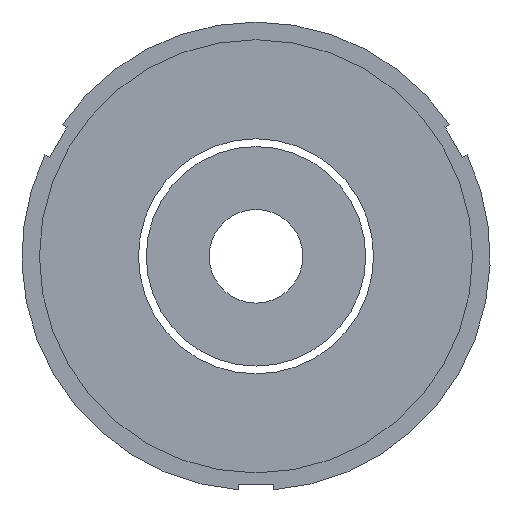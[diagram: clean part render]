
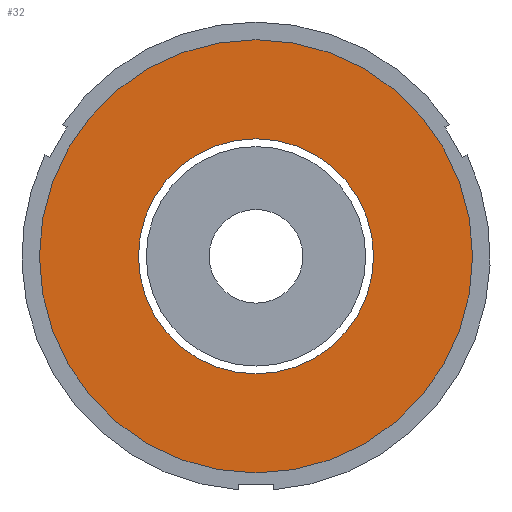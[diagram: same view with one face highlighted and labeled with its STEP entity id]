
A CAD part, front view. The second image highlights one B-rep face of the part: STEP entity #32.
In plain terms, the highlighted planar face has unit normal (0, -1, 0).
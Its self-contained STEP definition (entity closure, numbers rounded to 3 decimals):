
#32 = ADVANCED_FACE ( 'NONE', ( #727, #625 ), #155, .F. ) ;
#58 = EDGE_CURVE ( 'NONE', #300, #695, #190, .T. ) ;
#77 = CARTESIAN_POINT ( 'NONE',  ( 11.161, 15.672, 22.791 ) ) ;
#88 = AXIS2_PLACEMENT_3D ( 'NONE', #1062, #214, #595 ) ;
#102 = DIRECTION ( 'NONE',  ( 0., 0., 1. ) ) ;
#114 = CIRCLE ( 'NONE', #696, 18.5 ) ;
#126 = CARTESIAN_POINT ( 'NONE',  ( 11.161, 15.672, 51.331 ) ) ;
#133 = AXIS2_PLACEMENT_3D ( 'NONE', #1002, #342, #413 ) ;
#136 = VERTEX_POINT ( 'NONE', #587 ) ;
#155 = PLANE ( 'NONE',  #920 ) ;
#165 = EDGE_CURVE ( 'NONE', #571, #136, #114, .T. ) ;
#190 = CIRCLE ( 'NONE', #88, 10.04 ) ;
#207 = CARTESIAN_POINT ( 'NONE',  ( 11.161, 15.672, 32.831 ) ) ;
#214 = DIRECTION ( 'NONE',  ( 0., 1., 0. ) ) ;
#219 = CARTESIAN_POINT ( 'NONE',  ( 11.161, 15.672, 42.871 ) ) ;
#273 = DIRECTION ( 'NONE',  ( 0., 1., 0. ) ) ;
#299 = EDGE_LOOP ( 'NONE', ( #892, #929 ) ) ;
#300 = VERTEX_POINT ( 'NONE', #219 ) ;
#342 = DIRECTION ( 'NONE',  ( 0., 1., 0. ) ) ;
#359 = DIRECTION ( 'NONE',  ( 0., 1., 0. ) ) ;
#386 = ORIENTED_EDGE ( 'NONE', *, *, #58, .T. ) ;
#413 = DIRECTION ( 'NONE',  ( 0., 0., 1. ) ) ;
#533 = DIRECTION ( 'NONE',  ( 0., 0., 1. ) ) ;
#550 = AXIS2_PLACEMENT_3D ( 'NONE', #1207, #359, #657 ) ;
#571 = VERTEX_POINT ( 'NONE', #126 ) ;
#587 = CARTESIAN_POINT ( 'NONE',  ( 11.161, 15.672, 14.331 ) ) ;
#595 = DIRECTION ( 'NONE',  ( 0., 0., 1. ) ) ;
#625 = FACE_BOUND ( 'NONE', #927, .T. ) ;
#657 = DIRECTION ( 'NONE',  ( 0., 0., 1. ) ) ;
#663 = EDGE_CURVE ( 'NONE', #695, #300, #735, .T. ) ;
#666 = ORIENTED_EDGE ( 'NONE', *, *, #663, .T. ) ;
#695 = VERTEX_POINT ( 'NONE', #77 ) ;
#696 = AXIS2_PLACEMENT_3D ( 'NONE', #207, #273, #102 ) ;
#727 = FACE_OUTER_BOUND ( 'NONE', #299, .T. ) ;
#734 = EDGE_CURVE ( 'NONE', #136, #571, #1077, .T. ) ;
#735 = CIRCLE ( 'NONE', #133, 10.04 ) ;
#797 = CARTESIAN_POINT ( 'NONE',  ( 11.161, 15.672, 32.831 ) ) ;
#892 = ORIENTED_EDGE ( 'NONE', *, *, #734, .F. ) ;
#920 = AXIS2_PLACEMENT_3D ( 'NONE', #797, #1084, #533 ) ;
#927 = EDGE_LOOP ( 'NONE', ( #666, #386 ) ) ;
#929 = ORIENTED_EDGE ( 'NONE', *, *, #165, .F. ) ;
#1002 = CARTESIAN_POINT ( 'NONE',  ( 11.161, 15.672, 32.831 ) ) ;
#1062 = CARTESIAN_POINT ( 'NONE',  ( 11.161, 15.672, 32.831 ) ) ;
#1077 = CIRCLE ( 'NONE', #550, 18.5 ) ;
#1084 = DIRECTION ( 'NONE',  ( 0., 1., 0. ) ) ;
#1207 = CARTESIAN_POINT ( 'NONE',  ( 11.161, 15.672, 32.831 ) ) ;
